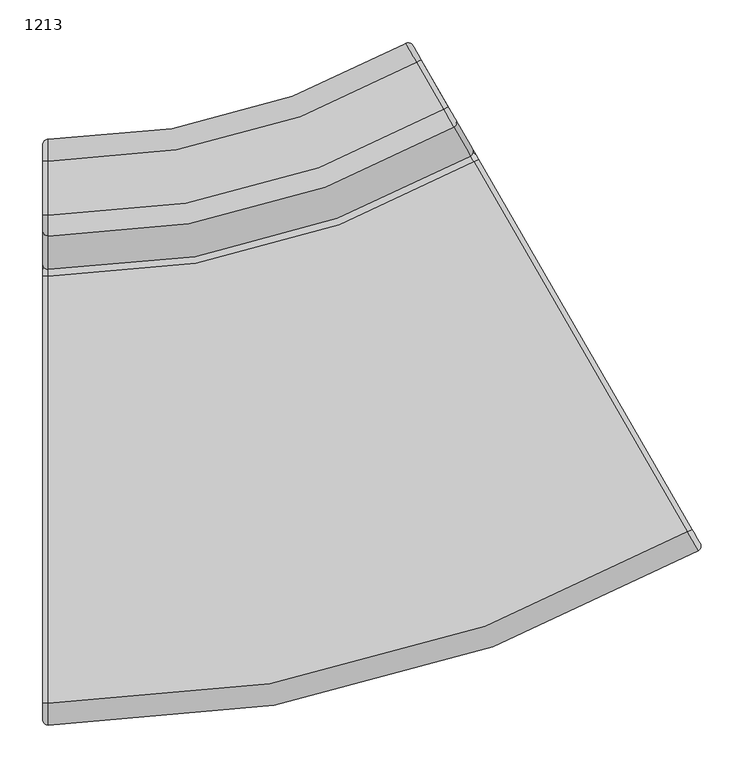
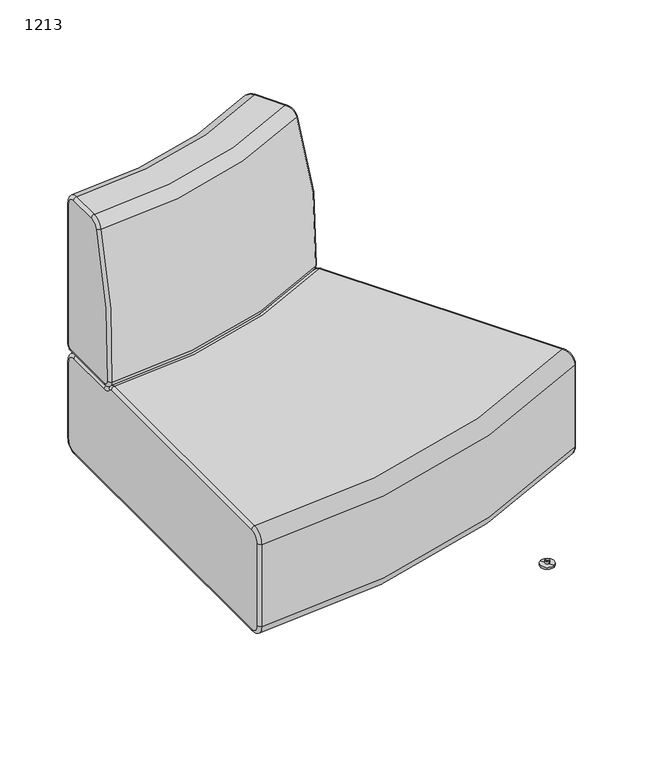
"""IFC4 building model written with IfcOpenShell, lengths in millimetres: furniture geometry, Laguna-Modular-Outside_Curve-ERG : 1213."""

from ifc_helpers import new_model, si_unit, point, frame, frame_2d, origin, place, context, project, spatial, polyline, circle_curve, ellipse_curve, trimmed, segment, composite_curve, outline, extrude, source, transform, mapped, element, save
from ifc_brep_helpers import plane_surface, cylinder_surface, revolved_surface, advanced_brep


def furniture_1213_b8046dc8(model_context):
    return source(origin(), model_context, "Body", "SolidModel", [
        extrude(outline(composite_curve([segment(trimmed(circle_curve(frame_2d((-4285.7544224, 1059.4790196)), 5.08), [point((-4288.2944224, 1063.8784287))], [point((-4281.3550133, 1062.0190196))], False, "CARTESIAN"), True, "CONTINUOUS"), segment(polyline([(-4281.3550133, 1062.0190196), (-4261.0350133, 1026.8237472)]), True, "CONTINUOUS"), segment(trimmed(circle_curve(frame_2d((-4265.4344224, 1024.2837472)), 5.08), [point((-4261.0350133, 1026.8237472))], [point((-4262.8944224, 1019.8843381))], False, "CARTESIAN"), True, "CONTINUOUS"), segment(polyline([(-4262.8944224, 1019.8843381), (-4315.687331, 989.4043381)]), True, "CONTINUOUS"), segment(trimmed(circle_curve(frame_2d((-4318.227331, 993.8037472)), 5.08), [point((-4315.687331, 989.4043381))], [point((-4322.6267401, 991.2637472))], False, "CARTESIAN"), True, "CONTINUOUS"), segment(polyline([(-4322.6267401, 991.2637472), (-4342.9467401, 1026.4590196)]), True, "CONTINUOUS"), segment(trimmed(circle_curve(frame_2d((-4338.547331, 1028.9990196)), 5.08), [point((-4342.9467401, 1026.4590196))], [point((-4341.087331, 1033.3984287))], False, "CARTESIAN"), True, "CONTINUOUS"), segment(polyline([(-4341.087331, 1033.3984287), (-4288.2944224, 1063.8784287)]), True, "CONTINUOUS")], self_intersect=False)), frame((0.0, 0.0, 200.66), z_axis=(0.0, 0.0, 1.0), x_axis=(1.0, 0.0, 0.0)), (0.0, 0.0, 1.0), 2.54),
        extrude(outline(composite_curve([segment(trimmed(circle_curve(frame_2d((-4007.237055, 577.0727885)), 5.08), [point((-4009.777055, 581.4721975))], [point((-4002.8376459, 579.6127885))], False, "CARTESIAN"), True, "CONTINUOUS"), segment(polyline([(-4002.8376459, 579.6127885), (-3982.5176459, 544.4175161)]), True, "CONTINUOUS"), segment(trimmed(circle_curve(frame_2d((-3986.917055, 541.8775161)), 5.08), [point((-3982.5176459, 544.4175161))], [point((-3984.377055, 537.478107))], False, "CARTESIAN"), True, "CONTINUOUS"), segment(polyline([(-3984.377055, 537.478107), (-4037.1699636, 506.998107)]), True, "CONTINUOUS"), segment(trimmed(circle_curve(frame_2d((-4039.7099636, 511.3975161)), 5.08), [point((-4037.1699636, 506.998107))], [point((-4044.1093727, 508.8575161))], False, "CARTESIAN"), True, "CONTINUOUS"), segment(polyline([(-4044.1093727, 508.8575161), (-4064.4293727, 544.0527885)]), True, "CONTINUOUS"), segment(trimmed(circle_curve(frame_2d((-4060.0299636, 546.5927885)), 5.08), [point((-4064.4293727, 544.0527885))], [point((-4062.5699636, 550.9921975))], False, "CARTESIAN"), True, "CONTINUOUS"), segment(polyline([(-4062.5699636, 550.9921975), (-4009.777055, 581.4721975)]), True, "CONTINUOUS")], self_intersect=False)), frame((0.0, 0.0, 200.66), z_axis=(0.0, 0.0, 1.0), x_axis=(1.0, 0.0, 0.0)), (0.0, 0.0, 1.0), 2.54),
        advanced_brep(
        [(-4700.4237656, 845.1834654, 435.9339217), (-4207.4897611, 977.2922447, 435.9339217), (-4226.9150142, 1010.9296795, 744.3916508), (-4700.4237656, 884.0269651, 744.3916508), (-4700.4237656, 863.0813354, 419.1), (-4216.4403103, 992.7913228, 419.1), (-4700.4237656, 984.17383, 419.1), (-4276.997487, 1097.6542078, 419.1), (-4700.4237656, 996.8738467, 431.8), (-4283.3486324, 1108.6520691, 431.8), (-4700.4237656, 996.8738467, 736.5999845), (-4283.3486324, 1108.6520691, 736.6), (-4700.4237656, 971.4738467, 762.0), (-4270.6463416, 1086.6563465, 762.0), (-4700.4237656, 908.202381, 762.0), (-4239.0048967, 1031.8649349, 762.0), (-4706.7737656, 990.5238467, 431.8), (-4706.7737656, 984.1738467, 425.45), (-4706.7737656, 863.0813354, 425.45), (-4706.7737656, 851.5215589, 436.3225994), (-4706.7737656, 890.0708162, 742.4437381), (-4706.7737656, 908.2023695, 755.65), (-4706.7737656, 971.4738467, 755.65), (-4706.7737656, 990.5238467, 736.6), (-4274.6741291, 1106.3287111, 736.6), (-4265.147411, 1089.8319192, 755.65), (-4233.5059661, 1035.0405076, 755.65), (-4224.4385542, 1019.339066, 742.4437381), (-4205.1604489, 985.9564374, 436.3225994), (-4210.9413797, 995.9668955, 425.45), (-4271.4985564, 1100.8297805, 425.45), (-4274.6741291, 1106.3287111, 431.8)],
        [
            (0, 1, circle_curve(frame((-4700.4237656, 1830.8736805, 435.9339217), z_axis=(0.0, 0.0, 1.0), x_axis=(0.5000901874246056, -0.8659733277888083, 0.0)), 985.6902151)),
            (1, 2, circle_curve(frame((-4625.9170797, 1701.8553468, 487.2440105), z_axis=(-0.8659733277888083, -0.5000901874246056, 0.0), x_axis=(0.5000901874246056, -0.8659733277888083, 0.0)), 838.2755126)),
            (2, 3, circle_curve(frame((-4700.4237656, 1830.8736805, 744.3916508), z_axis=(0.0, 0.0, -1.0), x_axis=(0.5000901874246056, -0.8659733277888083, 0.0)), 946.8467154)),
            (3, 0, circle_curve(frame((-4700.4237656, 1681.8871823, 487.2440105), z_axis=(1.0, 0.0, 0.0), x_axis=(0.0, -1.0, 0.0)), 838.2755126)),
            (0, 4, circle_curve(frame((-4700.4237656, 863.0813354, 437.0314921), z_axis=(1.0, 0.0, 0.0), x_axis=(0.0, -1.0, 0.0)), 17.9314921)),
            (4, 5, circle_curve(frame((-4700.4237656, 1830.8736805, 419.1), z_axis=(0.0, 0.0, 1.0), x_axis=(0.5000901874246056, -0.8659733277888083, 0.0)), 967.7923451)),
            (5, 1, circle_curve(frame((-4216.4403103, 992.7913228, 437.0314921), z_axis=(-0.8659733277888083, -0.5000901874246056, 0.0), x_axis=(0.5000901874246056, -0.8659733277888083, 0.0)), 17.9314921)),
            (4, 6),
            (6, 7, circle_curve(frame((-4700.4237656, 1830.8736805, 419.1), z_axis=(0.0, 0.0, 1.0), x_axis=(0.5000901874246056, -0.8659733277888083, 0.0)), 846.6998338)),
            (7, 5),
            (6, 8, circle_curve(frame((-4700.4237656, 984.1738467, 431.8), z_axis=(1.0, 0.0, 0.0), x_axis=(0.0, -1.0, 0.0)), 12.7)),
            (8, 9, circle_curve(frame((-4700.4237656, 1830.8736805, 431.8), z_axis=(0.0, 0.0, 1.0), x_axis=(0.5000901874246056, -0.8659733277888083, 0.0)), 833.9998338)),
            (9, 7, circle_curve(frame((-4276.997487, 1097.6542078, 431.8), z_axis=(-0.8659733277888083, -0.5000901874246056, 0.0), x_axis=(0.5000901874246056, -0.8659733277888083, 0.0)), 12.7)),
            (8, 10),
            (10, 11, circle_curve(frame((-4700.4237656, 1830.8736805, 736.6), z_axis=(0.0, 0.0, 1.0), x_axis=(0.5000901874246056, -0.8659733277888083, 0.0)), 833.9998338)),
            (11, 9),
            (10, 12, circle_curve(frame((-4700.4237656, 971.4738467, 736.6), z_axis=(1.0, 0.0, 0.0), x_axis=(0.0, -1.0, 0.0)), 25.4)),
            (12, 13, circle_curve(frame((-4700.4237656, 1830.8736805, 762.0), z_axis=(0.0, 0.0, 1.0), x_axis=(0.5000901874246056, -0.8659733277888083, 0.0)), 859.3998338)),
            (13, 11, circle_curve(frame((-4270.6463416, 1086.6563465, 736.6), z_axis=(-0.8659733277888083, -0.5000901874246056, 0.0), x_axis=(0.5000901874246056, -0.8659733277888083, 0.0)), 25.4)),
            (12, 14),
            (14, 15, circle_curve(frame((-4700.4237656, 1830.8736805, 762.0), z_axis=(0.0, 0.0, 1.0), x_axis=(0.5000901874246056, -0.8659733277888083, 0.0)), 922.671311)),
            (15, 13),
            (2, 15, circle_curve(frame((-4239.0048967, 1031.8649349, 736.6), z_axis=(-0.8659733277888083, -0.5000901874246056, 0.0), x_axis=(0.5000901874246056, -0.8659733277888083, 0.0)), 25.4)),
            (14, 3, circle_curve(frame((-4700.4237656, 908.2023695, 736.6), z_axis=(1.0, 0.0, 0.0), x_axis=(0.0, -1.0, 0.0)), 25.4)),
            (16, 8, circle_curve(frame((-4700.4237656, 990.5238467, 431.8), z_axis=(0.0, 0.0, -1.0), x_axis=(-1.0, 0.0, 0.0)), 6.35)),
            (6, 17, circle_curve(frame((-4700.4237656, 984.1738467, 425.45), z_axis=(0.0, 1.0, 0.0), x_axis=(-1.0, 0.0, 0.0)), 6.35)),
            (17, 16, circle_curve(frame((-4706.7737656, 984.1738467, 431.8), z_axis=(1.0, 0.0, 0.0), x_axis=(0.0, 1.0, 0.0)), 6.35)),
            (4, 18, circle_curve(frame((-4700.4237656, 863.0813354, 425.45), z_axis=(0.0, 1.0, 0.0), x_axis=(-1.0, 0.0, 0.0)), 6.35)),
            (18, 17),
            (0, 19, circle_curve(frame((-4700.4237656, 851.5215589, 436.3225994), z_axis=(0.0, 0.061209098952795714, -0.9981249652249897), x_axis=(-1.0, 0.0, 0.0)), 6.35)),
            (19, 18, circle_curve(frame((-4706.7737656, 863.0813354, 437.0314921), z_axis=(1.0, 0.0, 0.0), x_axis=(0.0, 0.0, -1.0)), 11.5814921)),
            (3, 20, circle_curve(frame((-4700.4237656, 890.0708162, 742.4437381), z_axis=(0.0, -0.30675790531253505, -0.95178757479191), x_axis=(-1.0, 0.0, 0.0)), 6.35)),
            (20, 19, circle_curve(frame((-4706.7737656, 1681.8871823, 487.2440105), z_axis=(1.0, 0.0, 0.0), x_axis=(0.0, -0.9981249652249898, -0.061209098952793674)), 831.9255126)),
            (14, 21, circle_curve(frame((-4700.4237656, 908.2023695, 755.65), z_axis=(0.0, -1.0, 0.0), x_axis=(-1.0, 0.0, 0.0)), 6.35)),
            (21, 20, circle_curve(frame((-4706.7737656, 908.2023695, 736.6), z_axis=(1.0, 0.0, 0.0), x_axis=(0.0, -0.9517875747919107, 0.3067579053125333)), 19.05)),
            (12, 22, circle_curve(frame((-4700.4237656, 971.4738467, 755.65), z_axis=(0.0, -1.0, 0.0), x_axis=(-1.0, 0.0, 0.0)), 6.35)),
            (22, 21),
            (10, 23, circle_curve(frame((-4700.4237656, 990.5238467, 736.6), z_axis=(0.0, 0.0, 1.0), x_axis=(-1.0, 0.0, 0.0)), 6.35)),
            (23, 22, circle_curve(frame((-4706.7737656, 971.4738467, 736.6), z_axis=(1.0, 0.0, 0.0), x_axis=(0.0, 0.0, 1.0)), 19.05)),
            (16, 23),
            (24, 11, circle_curve(frame((-4280.1730597, 1103.1531384, 736.6), z_axis=(0.0, 0.0, 1.0), x_axis=(0.5000901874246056, -0.8659733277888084, 0.0)), 6.35)),
            (13, 25, circle_curve(frame((-4270.6463416, 1086.6563465, 755.65), z_axis=(-0.5000901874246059, 0.8659733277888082, 0.0), x_axis=(0.0, 0.0, -1.0)), 6.35)),
            (25, 24, circle_curve(frame((-4265.147411, 1089.8319192, 736.6), z_axis=(-0.8659733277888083, -0.5000901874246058, 0.0), x_axis=(-0.5000901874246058, 0.8659733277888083, 0.0)), 19.05)),
            (15, 26, circle_curve(frame((-4239.0048967, 1031.8649349, 755.65), z_axis=(-0.5000901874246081, 0.8659733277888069, 0.0), x_axis=(0.0, 0.0, -1.0)), 6.35)),
            (26, 25),
            (2, 27, circle_curve(frame((-4229.9374848, 1016.1634933, 742.4437381), z_axis=(-0.15340661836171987, 0.26564416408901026, 0.9517875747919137), x_axis=(-0.4759796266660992, 0.8242226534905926, -0.3067579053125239)), 6.35)),
            (27, 26, circle_curve(frame((-4233.5059661, 1035.0405076, 736.6), z_axis=(-0.8659733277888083, -0.5000901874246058, 0.0), x_axis=(0.0, 0.0, 1.0)), 19.05)),
            (1, 28, circle_curve(frame((-4210.6593795, 982.7808647, 436.3225994), z_axis=(0.03061006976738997, -0.05300544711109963, 0.9981249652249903), x_axis=(-0.49915250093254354, 0.8643495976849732, 0.06120909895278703)), 6.35)),
            (28, 27, circle_curve(frame((-4620.4181491, 1705.0309195, 487.2440105), z_axis=(-0.8659733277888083, -0.5000901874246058, 0.0), x_axis=(0.4759796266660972, -0.8242226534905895, 0.30675790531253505)), 831.9255126)),
            (5, 29, circle_curve(frame((-4216.4403103, 992.7913228, 425.45), z_axis=(0.5000901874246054, -0.8659733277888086, 0.0), x_axis=(0.0, 0.0, 1.0000000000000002)), 6.35)),
            (29, 28, circle_curve(frame((-4210.9413797, 995.9668955, 437.0314921), z_axis=(-0.8659733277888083, -0.5000901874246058, 0.0), x_axis=(0.4991525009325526, -0.8643495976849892, -0.06120909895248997)), 11.5814921)),
            (7, 30, circle_curve(frame((-4276.997487, 1097.6542078, 425.45), z_axis=(0.500090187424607, -0.8659733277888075, 0.0), x_axis=(0.0, 0.0, 1.0)), 6.35)),
            (30, 29),
            (9, 31, circle_curve(frame((-4280.1730597, 1103.1531384, 431.8), z_axis=(0.0, 0.0, -1.0), x_axis=(0.5000901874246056, -0.8659733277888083, 0.0)), 6.35)),
            (31, 30, circle_curve(frame((-4271.4985564, 1100.8297805, 431.8), z_axis=(-0.8659733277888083, -0.5000901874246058, 0.0), x_axis=(0.0, 0.0, -1.0)), 6.35)),
            (24, 31),
        ],
        [
            revolved_surface(trimmed(ellipse_curve(frame((-4625.9170797, 1701.8553468, 487.2440105), z_axis=(0.8659733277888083, 0.5000901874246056, 0.0), x_axis=(0.5000901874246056, -0.8659733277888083, 0.0)), 838.2755126, 838.2755126), [point((-4226.9150142, 1010.9296795, 744.3916508))], [point((-4207.4897611, 977.2922447, 435.9339217))], True, "CARTESIAN"), (-4700.4237656, 1830.8736805, 0.0), (0.0, 0.0, -1.0)),
            revolved_surface(trimmed(ellipse_curve(frame((-4216.4403103, 992.7913228, 437.0314921), z_axis=(0.8659733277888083, 0.5000901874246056, 0.0), x_axis=(0.5000901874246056, -0.8659733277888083, 0.0)), 17.9314921, 17.9314921), [point((-4207.4897611, 977.2922447, 435.9339217))], [point((-4216.4403103, 992.7913228, 419.1))], True, "CARTESIAN"), (-4700.4237656, 1830.8736805, 0.0), (0.0, 0.0, -1.0)),
            plane_surface(frame((-4700.4237656, 1830.8736805, 419.1), z_axis=(0.0, 0.0, -1.0), x_axis=(0.5000901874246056, -0.8659733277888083, 0.0))),
            revolved_surface(trimmed(ellipse_curve(frame((-4276.997487, 1097.6542078, 431.8), z_axis=(0.8659733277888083, 0.5000901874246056, 0.0), x_axis=(0.5000901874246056, -0.8659733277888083, 0.0)), 12.7, 12.7), [point((-4276.997487, 1097.6542078, 419.1))], [point((-4283.3486324, 1108.6520691, 431.8))], True, "CARTESIAN"), (-4700.4237656, 1830.8736805, 0.0), (0.0, 0.0, -1.0)),
            revolved_surface(polyline([(-4283.348632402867, 1108.652069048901, 431.8), (-4283.348632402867, 1108.652069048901, 736.6)]), (-4700.4237656, 1830.8736805, 0.0), (0.0, 0.0, -1.0)),
            revolved_surface(trimmed(ellipse_curve(frame((-4270.6463416, 1086.6563465, 736.6), z_axis=(0.8659733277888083, 0.5000901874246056, 0.0), x_axis=(0.5000901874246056, -0.8659733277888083, 0.0)), 25.4, 25.4), [point((-4283.3486324, 1108.6520691, 736.6))], [point((-4270.6463416, 1086.6563465, 762.0))], True, "CARTESIAN"), (-4700.4237656, 1830.8736805, 0.0), (0.0, 0.0, -1.0)),
            plane_surface(frame((-4700.4237656, 1830.8736805, 762.0), z_axis=(0.0, 0.0, 1.0), x_axis=(0.5000901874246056, -0.8659733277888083, 0.0))),
            revolved_surface(trimmed(ellipse_curve(frame((-4239.0048967, 1031.8649349, 736.6), z_axis=(0.8659733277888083, 0.5000901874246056, 0.0), x_axis=(0.5000901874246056, -0.8659733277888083, 0.0)), 25.4, 25.4), [point((-4239.0048967, 1031.8649349, 762.0))], [point((-4226.9150142, 1010.9296795, 744.3916508))], True, "CARTESIAN"), (-4700.4237656, 1830.8736805, 0.0), (0.0, 0.0, -1.0)),
            revolved_surface(trimmed(ellipse_curve(frame((-4700.4237656, 990.5238467, 431.8), z_axis=(0.0, 0.0, 1.0), x_axis=(-1.0, 0.0, 0.0)), 6.35, 6.35), [point((-4700.4237656, 996.8738467, 431.8))], [point((-4706.7737656, 990.5238467, 431.8))], True, "CARTESIAN"), (-4700.4237656, 984.1738467, 431.8), (-1.0, 0.0, 0.0)),
            cylinder_surface(frame((-4700.4237656, 984.1738467, 425.45), z_axis=(0.0, 1.0, 0.0), x_axis=(-1.0, 0.0, 0.0)), 6.35),
            revolved_surface(trimmed(ellipse_curve(frame((-4700.4237656, 863.0813354, 425.45), z_axis=(0.0, 1.0, 0.0), x_axis=(-1.0, 0.0, 0.0)), 6.35, 6.35), [point((-4700.4237656, 863.0813354, 419.1))], [point((-4706.7737656, 863.0813354, 425.45))], True, "CARTESIAN"), (-4700.4237656, 863.0813354, 437.0314921), (-1.0, 0.0, 0.0)),
            revolved_surface(trimmed(ellipse_curve(frame((-4700.4237656, 851.5215589, 436.3225994), z_axis=(0.0, 0.0612090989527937, -0.9981249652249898), x_axis=(-1.0, 0.0, 0.0)), 6.35, 6.35), [point((-4700.4237656, 845.1834654, 435.9339217))], [point((-4706.7737656, 851.5215589, 436.3225994))], True, "CARTESIAN"), (-4700.4237656, 1681.8871823, 487.2440105), (-1.0, 0.0, 0.0)),
            revolved_surface(trimmed(ellipse_curve(frame((-4700.4237656, 890.0708162, 742.4437381), z_axis=(0.0, -0.3067579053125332, -0.9517875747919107), x_axis=(-1.0, 0.0, 0.0)), 6.35, 6.35), [point((-4700.4237656, 884.0269651, 744.3916508))], [point((-4706.7737656, 890.0708162, 742.4437381))], True, "CARTESIAN"), (-4700.4237656, 908.2023695, 736.6), (-1.0, 0.0, 0.0)),
            cylinder_surface(frame((-4700.4237656, 908.2023695, 755.65), z_axis=(0.0, -1.0, 0.0), x_axis=(-1.0, 0.0, 0.0)), 6.35),
            revolved_surface(trimmed(ellipse_curve(frame((-4700.4237656, 971.4738467, 755.65), z_axis=(0.0, -1.0, 0.0), x_axis=(-1.0, 0.0, 0.0)), 6.35, 6.35), [point((-4700.4237656, 971.4738467, 762.0))], [point((-4706.7737656, 971.4738467, 755.65))], True, "CARTESIAN"), (-4700.4237656, 971.4738467, 736.6), (-1.0, 0.0, 0.0)),
            cylinder_surface(frame((-4700.4237656, 990.5238467, 736.6), z_axis=(0.0, 0.0, 1.0), x_axis=(-1.0, 0.0, 0.0)), 6.35),
            plane_surface(frame((-4706.7737656, 990.5238467, 431.8), z_axis=(-1.0, 0.0, 0.0), x_axis=(0.0, 0.0, -1.0))),
            revolved_surface(trimmed(ellipse_curve(frame((-4280.1730597, 1103.1531384, 736.6), z_axis=(0.0, 0.0, -1.0), x_axis=(0.5000901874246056, -0.8659733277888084, 0.0)), 6.35, 6.35), [point((-4283.3486324, 1108.6520691, 736.6))], [point((-4274.6741291, 1106.3287111, 736.6))], True, "CARTESIAN"), (-4270.6463416, 1086.6563465, 736.6), (0.8659733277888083, 0.5000901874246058, 0.0)),
            cylinder_surface(frame((-4270.6463416, 1086.6563465, 755.65), z_axis=(-0.5000901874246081, 0.8659733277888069, 0.0), x_axis=(0.0, 0.0, -1.0)), 6.35),
            revolved_surface(trimmed(ellipse_curve(frame((-4239.0048967, 1031.8649349, 755.65), z_axis=(-0.5000901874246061, 0.8659733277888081, 0.0), x_axis=(0.0, 0.0, -1.0)), 6.35, 6.35), [point((-4239.0048967, 1031.8649349, 762.0))], [point((-4233.5059661, 1035.0405076, 755.65))], True, "CARTESIAN"), (-4239.0048967, 1031.8649349, 736.6), (0.8659733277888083, 0.5000901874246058, 0.0)),
            revolved_surface(trimmed(ellipse_curve(frame((-4229.9374848, 1016.1634933, 742.4437381), z_axis=(-0.15340661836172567, 0.26564416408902, 0.9517875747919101), x_axis=(-0.4759796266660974, 0.8242226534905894, -0.30675790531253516)), 6.35, 6.35), [point((-4226.9150142, 1010.9296795, 744.3916508))], [point((-4224.4385542, 1019.339066, 742.4437381))], True, "CARTESIAN"), (-4625.9170797, 1701.8553468, 487.2440105), (0.8659733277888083, 0.5000901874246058, 0.0)),
            revolved_surface(trimmed(ellipse_curve(frame((-4210.6593795, 982.7808647, 436.3225994), z_axis=(0.03061006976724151, -0.053005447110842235, 0.9981249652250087), x_axis=(-0.49915250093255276, 0.8643495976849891, 0.06120909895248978)), 6.35, 6.35), [point((-4207.4897611, 977.2922447, 435.9339217))], [point((-4205.1604489, 985.9564374, 436.3225994))], True, "CARTESIAN"), (-4216.4403103, 992.7913228, 437.0314921), (0.8659733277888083, 0.5000901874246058, 0.0)),
            cylinder_surface(frame((-4216.4403103, 992.7913228, 425.45), z_axis=(0.500090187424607, -0.8659733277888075, 0.0), x_axis=(0.0, 0.0, 1.0)), 6.35),
            revolved_surface(trimmed(ellipse_curve(frame((-4276.997487, 1097.6542078, 425.45), z_axis=(0.5000901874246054, -0.8659733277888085, 0.0), x_axis=(0.0, 0.0, 1.0)), 6.35, 6.35), [point((-4276.997487, 1097.6542078, 419.1))], [point((-4271.4985564, 1100.8297805, 425.45))], True, "CARTESIAN"), (-4276.997487, 1097.6542078, 431.8), (0.8659733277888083, 0.5000901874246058, 0.0)),
            cylinder_surface(frame((-4280.1730597, 1103.1531384, 431.8), z_axis=(0.0, 0.0, -1.0), x_axis=(0.5000901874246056, -0.8659733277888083, 0.0)), 6.35),
            plane_surface(frame((-5036.4559346, 2425.4562241, 487.2440105), z_axis=(0.8659733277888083, 0.5000901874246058, 0.0), x_axis=(0.0, 0.0, 1.0))),
        ],
        [
            (0, [[1, 2, 3, 4]]),
            (1, [[-1, 5, 6, 7]]),
            (2, [[-6, 8, 9, 10]]),
            (3, [[-9, 11, 12, 13]]),
            (4, [[-12, 14, 15, 16]]),
            (5, [[-15, 17, 18, 19]]),
            (6, [[-18, 20, 21, 22]]),
            (7, [[-3, 23, -21, 24]]),
            (8, [[25, -11, 26, 27]]),
            (9, [[-26, -8, 28, 29]]),
            (10, [[-28, -5, 30, 31]]),
            (11, [[-30, -4, 32, 33]]),
            (12, [[-32, -24, 34, 35]]),
            (13, [[-34, -20, 36, 37]]),
            (14, [[-36, -17, 38, 39]]),
            (15, [[-25, 40, -38, -14]]),
            (16, [[-27, -29, -31, -33, -35, -37, -39, -40]]),
            (17, [[41, -19, 42, 43]]),
            (18, [[-42, -22, 44, 45]]),
            (19, [[-44, -23, 46, 47]]),
            (20, [[-46, -2, 48, 49]]),
            (21, [[-48, -7, 50, 51]]),
            (22, [[-50, -10, 52, 53]]),
            (23, [[-52, -13, 54, 55]]),
            (24, [[-41, 56, -54, -16]]),
            (25, [[-43, -45, -47, -49, -51, -53, -55, -56]]),
        ],
    ),
        advanced_brep(
        [(-4270.6369938, 1086.6348651, 203.2), (-4700.4237656, 971.4738467, 203.2), (-4700.4237656, 996.8738467, 228.6), (-4283.3369938, 1108.6319104, 228.6), (-3954.3683769, 538.8415519, 203.2), (-4700.4237656, 338.9365976, 203.2), (-3941.6683692, 516.8444933, 228.6), (-4700.4237656, 313.5365976, 228.6), (-3941.6683692, 516.8444933, 406.3999809), (-4700.4237656, 313.5365976, 406.4), (-3954.3683692, 538.8415385, 431.8), (-4700.4237656, 338.9365976, 431.8), (-4203.6043497, 970.5309199, 431.8), (-4700.4237656, 837.408566, 431.8), (-4209.3142226, 980.4207099, 426.1507973), (-4700.4237656, 848.8283045, 426.1507973), (-4216.4407381, 992.7641967, 419.1), (-4700.4237656, 863.0813354, 419.1), (-4270.6369857, 1086.6348511, 419.1), (-4700.4237656, 971.4738467, 419.1), (-4283.3369938, 1108.6319104, 393.7), (-4700.4237656, 996.8738467, 393.7), (-4706.7737656, 971.4738467, 412.75), (-4706.7737656, 990.5238467, 393.7), (-4706.7737656, 990.5238467, 228.6), (-4706.7737656, 971.4738467, 209.55), (-4706.7737656, 338.9365976, 209.55), (-4706.7737656, 319.8865976, 228.6), (-4706.7737656, 319.8865976, 406.4), (-4706.7737656, 338.9365976, 425.45), (-4706.7737656, 837.408566, 425.45), (-4706.7737656, 843.7809417, 422.2976649), (-4706.7737656, 863.0813354, 412.75), (-4265.1377324, 1089.8098651, 209.55), (-4274.6627324, 1106.3076491, 228.6), (-4274.6627324, 1106.3076491, 393.7), (-4265.1377324, 1089.8098651, 412.75), (-4210.9414768, 995.9391967, 412.75), (-4201.2912799, 979.2245655, 422.2976649), (-4198.1050921, 973.7059263, 425.45), (-3948.8691079, 542.0165385, 425.45), (-3939.3441079, 525.5187546, 406.4), (-3939.3441079, 525.5187546, 228.6), (-3948.8691079, 542.0165385, 209.55)],
        [
            (0, 1, circle_curve(frame((-4700.4237656, 1831.0473903, 203.2), z_axis=(0.0, 0.0, -1.0), x_axis=(0.0, -1.0, 0.0)), 859.5735436)),
            (1, 2, circle_curve(frame((-4700.4237656, 971.4738467, 228.6), z_axis=(1.0, 0.0, 0.0), x_axis=(0.0, 1.0, 0.0)), 25.4)),
            (2, 3, circle_curve(frame((-4700.4237656, 1831.0473903, 228.6), z_axis=(0.0, 0.0, 1.0), x_axis=(0.0, -1.0, 0.0)), 834.1735436)),
            (3, 0, circle_curve(frame((-4270.6369938, 1086.6348651, 228.6), z_axis=(-0.8660254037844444, -0.4999999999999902, 0.0), x_axis=(-0.4999999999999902, 0.8660254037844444, 0.0)), 25.4)),
            (0, 4),
            (4, 5, circle_curve(frame((-4700.4237656, 1831.0473903, 203.2), z_axis=(0.0, 0.0, -1.0), x_axis=(0.0, -1.0, 0.0)), 1492.1107927)),
            (5, 1),
            (4, 6, circle_curve(frame((-3954.3683692, 538.8415385, 228.6), z_axis=(-0.8660254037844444, -0.4999999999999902, 0.0), x_axis=(-0.4999999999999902, 0.8660254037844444, 0.0)), 25.4)),
            (6, 7, circle_curve(frame((-4700.4237656, 1831.0473903, 228.6), z_axis=(0.0, 0.0, -1.0), x_axis=(0.0, -1.0, 0.0)), 1517.5107927)),
            (7, 5, circle_curve(frame((-4700.4237656, 338.9365976, 228.6), z_axis=(1.0, 0.0, 0.0), x_axis=(0.0, 1.0, 0.0)), 25.4)),
            (6, 8),
            (8, 9, circle_curve(frame((-4700.4237656, 1831.0473903, 406.4), z_axis=(0.0, 0.0, -1.0), x_axis=(0.0, -1.0, 0.0)), 1517.5107927)),
            (9, 7),
            (8, 10, circle_curve(frame((-3954.3683692, 538.8415385, 406.4), z_axis=(-0.8660254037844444, -0.4999999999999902, 0.0), x_axis=(-0.4999999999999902, 0.8660254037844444, 0.0)), 25.4)),
            (10, 11, circle_curve(frame((-4700.4237656, 1831.0473903, 431.8), z_axis=(0.0, 0.0, -1.0), x_axis=(0.0, -1.0, 0.0)), 1492.1107927)),
            (11, 9, circle_curve(frame((-4700.4237656, 338.9365976, 406.4), z_axis=(1.0, 0.0, 0.0), x_axis=(0.0, 1.0, 0.0)), 25.4)),
            (10, 12),
            (12, 13, circle_curve(frame((-4700.4237656, 1831.0473903, 431.8), z_axis=(0.0, 0.0, -1.0), x_axis=(0.0, -1.0, 0.0)), 993.6388243)),
            (13, 11),
            (12, 14, circle_curve(frame((-4203.6043534, 970.5309263, 417.4330241), z_axis=(-0.8660254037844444, -0.4999999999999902, 0.0), x_axis=(-0.4999999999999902, 0.8660254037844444, 0.0)), 14.3669759)),
            (14, 15, circle_curve(frame((-4700.4237656, 1831.0473903, 426.1507973), z_axis=(0.0, 0.0, -1.0), x_axis=(0.0, -1.0, 0.0)), 982.2190858)),
            (15, 13, circle_curve(frame((-4700.4237656, 837.408566, 417.4330241), z_axis=(1.0, 0.0, 0.0), x_axis=(0.0, 1.0, 0.0)), 14.3669759)),
            (14, 16, circle_curve(frame((-4216.4407381, 992.7641967, 437.0314921), z_axis=(0.8660254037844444, 0.4999999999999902, 0.0), x_axis=(-0.4999999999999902, 0.8660254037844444, 0.0)), 17.9314921)),
            (16, 17, circle_curve(frame((-4700.4237656, 1831.0473903, 419.1), z_axis=(0.0, 0.0, -1.0), x_axis=(0.0, -1.0, 0.0)), 967.9660549)),
            (17, 15, circle_curve(frame((-4700.4237656, 863.0813354, 437.0314921), z_axis=(-1.0, 0.0, 0.0), x_axis=(0.0, 1.0, 0.0)), 17.9314921)),
            (16, 18),
            (18, 19, circle_curve(frame((-4700.4237656, 1831.0473903, 419.1), z_axis=(0.0, 0.0, -1.0), x_axis=(0.0, -1.0, 0.0)), 859.5735436)),
            (19, 17),
            (18, 20, circle_curve(frame((-4270.6369938, 1086.6348651, 393.7), z_axis=(-0.8660254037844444, -0.4999999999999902, 0.0), x_axis=(-0.4999999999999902, 0.8660254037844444, 0.0)), 25.4)),
            (20, 21, circle_curve(frame((-4700.4237656, 1831.0473903, 393.7), z_axis=(0.0, 0.0, -1.0), x_axis=(0.0, -1.0, 0.0)), 834.1735436)),
            (21, 19, circle_curve(frame((-4700.4237656, 971.4738467, 393.7), z_axis=(1.0, 0.0, 0.0), x_axis=(0.0, 1.0, 0.0)), 25.4)),
            (2, 21),
            (20, 3),
            (22, 19, circle_curve(frame((-4700.4237656, 971.4738467, 412.75), z_axis=(0.0, 1.0, 0.0), x_axis=(0.0, 0.0, -1.0)), 6.35)),
            (21, 23, circle_curve(frame((-4700.4237656, 990.5238467, 393.7), z_axis=(0.0, 0.0, 1.0), x_axis=(0.0, -1.0, 0.0)), 6.35)),
            (23, 22, circle_curve(frame((-4706.7737656, 971.4738467, 393.7), z_axis=(1.0, 0.0, 0.0), x_axis=(0.0, 0.0, 1.0)), 19.05)),
            (2, 24, circle_curve(frame((-4700.4237656, 990.5238467, 228.6), z_axis=(0.0, 0.0, 1.0), x_axis=(0.0, -1.0, 0.0)), 6.35)),
            (24, 23),
            (1, 25, circle_curve(frame((-4700.4237656, 971.4738467, 209.55), z_axis=(0.0, 1.0, 0.0), x_axis=(0.0, 0.0, 1.0)), 6.35)),
            (25, 24, circle_curve(frame((-4706.7737656, 971.4738467, 228.6), z_axis=(1.0, 0.0, 0.0), x_axis=(0.0, 1.0, 0.0)), 19.05)),
            (5, 26, circle_curve(frame((-4700.4237656, 338.9365976, 209.55), z_axis=(0.0, 1.0, 0.0), x_axis=(0.0, 0.0, 1.0)), 6.35)),
            (26, 25),
            (7, 27, circle_curve(frame((-4700.4237656, 319.8865976, 228.6), z_axis=(0.0, 0.0, -1.0), x_axis=(0.0, 1.0, 0.0)), 6.35)),
            (27, 26, circle_curve(frame((-4706.7737656, 338.9365976, 228.6), z_axis=(1.0, 0.0, 0.0), x_axis=(0.0, 0.0, -1.0)), 19.05)),
            (9, 28, circle_curve(frame((-4700.4237656, 319.8865976, 406.4), z_axis=(0.0, 0.0, -1.0), x_axis=(0.0, 1.0, 0.0)), 6.35)),
            (28, 27),
            (11, 29, circle_curve(frame((-4700.4237656, 338.9365976, 425.45), z_axis=(0.0, -1.0, 0.0), x_axis=(0.0, 0.0, -1.0)), 6.35)),
            (29, 28, circle_curve(frame((-4706.7737656, 338.9365976, 406.4), z_axis=(1.0, 0.0, 0.0), x_axis=(0.0, -1.0, 0.0)), 19.05)),
            (13, 30, circle_curve(frame((-4700.4237656, 837.408566, 425.45), z_axis=(0.0, -1.0, 0.0), x_axis=(0.0, 0.0, -1.0)), 6.35)),
            (30, 29),
            (15, 31, circle_curve(frame((-4700.4237656, 843.7809417, 422.2976649), z_axis=(0.0, -0.6067924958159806, 0.7948602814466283), x_axis=(0.0, -0.7948602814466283, -0.6067924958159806)), 6.35)),
            (31, 30, circle_curve(frame((-4706.7737656, 837.408566, 417.4330241), z_axis=(1.0, 0.0, 0.0), x_axis=(0.0, 0.0, 1.0)), 8.0169759)),
            (17, 32, circle_curve(frame((-4700.4237656, 863.0813354, 412.75), z_axis=(0.0, -1.0, 0.0), x_axis=(0.0, 0.0, -1.0)), 6.35)),
            (32, 31, circle_curve(frame((-4706.7737656, 863.0813354, 437.0314921), z_axis=(-1.0, 0.0, 0.0), x_axis=(0.0, -0.7948602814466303, -0.6067924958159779)), 24.2814921)),
            (22, 32),
            (33, 0, circle_curve(frame((-4270.6369938, 1086.6348651, 209.55), z_axis=(-0.4999999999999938, 0.8660254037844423, 0.0), x_axis=(0.0, 0.0, 1.0)), 6.35)),
            (3, 34, circle_curve(frame((-4280.1619938, 1103.1326491, 228.6), z_axis=(0.0, 0.0, -1.0), x_axis=(0.49999999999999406, -0.8660254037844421, 0.0)), 6.35)),
            (34, 33, circle_curve(frame((-4265.1377324, 1089.8098651, 228.6), z_axis=(-0.8660254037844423, -0.49999999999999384, 0.0), x_axis=(0.0, 0.0, -1.0)), 19.05)),
            (20, 35, circle_curve(frame((-4280.1619938, 1103.1326491, 393.7), z_axis=(0.0, 0.0, -1.0), x_axis=(0.49999999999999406, -0.8660254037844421, 0.0)), 6.35)),
            (35, 34),
            (18, 36, circle_curve(frame((-4270.6369938, 1086.6348651, 412.75), z_axis=(-0.4999999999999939, 0.8660254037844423, 0.0), x_axis=(0.0, 0.0, -1.0)), 6.35)),
            (36, 35, circle_curve(frame((-4265.1377324, 1089.8098651, 393.7), z_axis=(-0.8660254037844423, -0.49999999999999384, 0.0), x_axis=(-0.49999999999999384, 0.8660254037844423, 0.0)), 19.05)),
            (16, 37, circle_curve(frame((-4216.4407381, 992.7641967, 412.75), z_axis=(-0.49999999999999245, 0.8660254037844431, 0.0), x_axis=(0.0, 0.0, -1.0)), 6.35)),
            (37, 36),
            (14, 38, circle_curve(frame((-4206.7905412, 976.0495655, 422.2976649), z_axis=(-0.3033962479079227, 0.5254977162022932, -0.794860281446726), x_axis=(0.39743014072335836, -0.6883691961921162, -0.6067924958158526)), 6.35)),
            (38, 37, circle_curve(frame((-4210.9414768, 995.9391967, 437.0314921), z_axis=(0.8660254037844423, 0.49999999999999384, 0.0), x_axis=(0.0, 0.0, -1.0)), 24.2814921)),
            (12, 39, circle_curve(frame((-4203.6043534, 970.5309263, 425.45), z_axis=(-0.4999999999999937, 0.8660254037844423, 0.0), x_axis=(0.0, 0.0, -1.0)), 6.35)),
            (39, 38, circle_curve(frame((-4198.1050921, 973.7059263, 417.4330241), z_axis=(-0.8660254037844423, -0.49999999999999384, 0.0), x_axis=(-0.39743014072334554, 0.6883691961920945, 0.6067924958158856)), 8.0169759)),
            (10, 40, circle_curve(frame((-3954.3683692, 538.8415385, 425.45), z_axis=(-0.49999999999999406, 0.8660254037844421, 0.0), x_axis=(0.0, 0.0, -1.0)), 6.35)),
            (40, 39),
            (8, 41, circle_curve(frame((-3944.8433692, 522.3437546, 406.4), z_axis=(0.0, 0.0, 1.0), x_axis=(-0.4999999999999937, 0.8660254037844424, 0.0)), 6.35)),
            (41, 40, circle_curve(frame((-3948.8691079, 542.0165385, 406.4), z_axis=(-0.8660254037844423, -0.49999999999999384, 0.0), x_axis=(0.0, 0.0, 1.0)), 19.05)),
            (6, 42, circle_curve(frame((-3944.8433692, 522.3437546, 228.6), z_axis=(0.0, 0.0, 1.0), x_axis=(-0.4999999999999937, 0.8660254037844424, 0.0)), 6.35)),
            (42, 41),
            (4, 43, circle_curve(frame((-3954.3683692, 538.8415385, 209.55), z_axis=(0.49999999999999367, -0.8660254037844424, 0.0), x_axis=(0.0, 0.0, 1.0)), 6.35)),
            (43, 42, circle_curve(frame((-3948.8691079, 542.0165385, 228.6), z_axis=(-0.8660254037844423, -0.49999999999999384, 0.0), x_axis=(0.49999999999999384, -0.8660254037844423, 0.0)), 19.05)),
            (33, 43),
        ],
        [
            revolved_surface(trimmed(ellipse_curve(frame((-4700.4237656, 971.4738467, 228.6), z_axis=(-1.0, 0.0, 0.0), x_axis=(0.0, 1.0, 0.0)), 25.4, 25.4), [point((-4700.4237656, 996.8738467, 228.6))], [point((-4700.4237656, 971.4738467, 203.2))], True, "CARTESIAN"), (-4700.4237656, 1831.0473903, 0.0), (0.0, 0.0, 1.0)),
            plane_surface(frame((-4700.4237656, 1831.0473903, 203.2), z_axis=(0.0, 0.0, -1.0), x_axis=(0.0, -1.0, 0.0))),
            revolved_surface(trimmed(ellipse_curve(frame((-4700.4237656, 338.9365976, 228.6), z_axis=(-1.0, 0.0, 0.0), x_axis=(0.0, 1.0, 0.0)), 25.4, 25.4), [point((-4700.4237656, 338.9365976, 203.2))], [point((-4700.4237656, 313.5365976, 228.6))], True, "CARTESIAN"), (-4700.4237656, 1831.0473903, 0.0), (0.0, 0.0, 1.0)),
            cylinder_surface(frame((-4700.4237656, 1831.0473903, 0.0), z_axis=(0.0, 0.0, 1.0), x_axis=(0.0, -1.0, 0.0)), 1517.5107927),
            revolved_surface(trimmed(ellipse_curve(frame((-4700.4237656, 338.9365976, 406.4), z_axis=(-1.0, 0.0, 0.0), x_axis=(0.0, 1.0, 0.0)), 25.4, 25.4), [point((-4700.4237656, 313.5365976, 406.4))], [point((-4700.4237656, 338.9365976, 431.8))], True, "CARTESIAN"), (-4700.4237656, 1831.0473903, 0.0), (0.0, 0.0, 1.0)),
            plane_surface(frame((-4700.4237656, 1831.0473903, 431.8), z_axis=(0.0, 0.0, 1.0), x_axis=(0.0, -1.0, 0.0))),
            revolved_surface(trimmed(ellipse_curve(frame((-4700.4237656, 837.408566, 417.4330241), z_axis=(-1.0, 0.0, 0.0), x_axis=(0.0, 1.0, 0.0)), 14.3669759, 14.3669759), [point((-4700.4237656, 837.408566, 431.8))], [point((-4700.4237656, 848.8283045, 426.1507973))], True, "CARTESIAN"), (-4700.4237656, 1831.0473903, 0.0), (0.0, 0.0, 1.0)),
            revolved_surface(trimmed(ellipse_curve(frame((-4700.4237656, 863.0813354, 437.0314921), z_axis=(1.0, 0.0, 0.0), x_axis=(0.0, 1.0, 0.0)), 17.9314921, 17.9314921), [point((-4700.4237656, 848.8283045, 426.1507973))], [point((-4700.4237656, 863.0813354, 419.1))], True, "CARTESIAN"), (-4700.4237656, 1831.0473903, 0.0), (0.0, 0.0, 1.0)),
            plane_surface(frame((-4700.4237656, 1831.0473903, 419.1), z_axis=(0.0, 0.0, 1.0), x_axis=(0.0, -1.0, 0.0))),
            revolved_surface(trimmed(ellipse_curve(frame((-4700.4237656, 971.4738467, 393.7), z_axis=(-1.0, 0.0, 0.0), x_axis=(0.0, 1.0, 0.0)), 25.4, 25.4), [point((-4700.4237656, 971.4738467, 419.1))], [point((-4700.4237656, 996.8738467, 393.7))], True, "CARTESIAN"), (-4700.4237656, 1831.0473903, 0.0), (0.0, 0.0, 1.0)),
            revolved_surface(polyline([(-4700.4237656, 996.8738467, 393.7), (-4700.4237656, 996.8738467, 228.6)]), (-4700.4237656, 1831.0473903, 0.0), (0.0, 0.0, 1.0)),
            revolved_surface(trimmed(ellipse_curve(frame((-4700.4237656, 971.4738467, 412.75), z_axis=(0.0, -1.0, 0.0), x_axis=(0.0, 0.0, -1.0)), 6.35, 6.35), [point((-4700.4237656, 971.4738467, 419.1))], [point((-4706.7737656, 971.4738467, 412.75))], True, "CARTESIAN"), (-4700.4237656, 971.4738467, 393.7), (-1.0, 0.0, 0.0)),
            cylinder_surface(frame((-4700.4237656, 990.5238467, 393.7), z_axis=(0.0, 0.0, 1.0), x_axis=(0.0, -1.0, 0.0)), 6.35),
            revolved_surface(trimmed(ellipse_curve(frame((-4700.4237656, 990.5238467, 228.6), z_axis=(0.0, 0.0, 1.0), x_axis=(0.0, -1.0, 0.0)), 6.35, 6.35), [point((-4700.4237656, 996.8738467, 228.6))], [point((-4706.7737656, 990.5238467, 228.6))], True, "CARTESIAN"), (-4700.4237656, 971.4738467, 228.6), (-1.0, 0.0, 0.0)),
            cylinder_surface(frame((-4700.4237656, 971.4738467, 209.55), z_axis=(0.0, 1.0, 0.0), x_axis=(0.0, 0.0, 1.0)), 6.35),
            revolved_surface(trimmed(ellipse_curve(frame((-4700.4237656, 338.9365976, 209.55), z_axis=(0.0, 1.0, 0.0), x_axis=(0.0, 0.0, 1.0)), 6.35, 6.35), [point((-4700.4237656, 338.9365976, 203.2))], [point((-4706.7737656, 338.9365976, 209.55))], True, "CARTESIAN"), (-4700.4237656, 338.9365976, 228.6), (-1.0, 0.0, 0.0)),
            cylinder_surface(frame((-4700.4237656, 319.8865976, 228.6), z_axis=(0.0, 0.0, -1.0), x_axis=(0.0, 1.0, 0.0)), 6.35),
            revolved_surface(trimmed(ellipse_curve(frame((-4700.4237656, 319.8865976, 406.4), z_axis=(0.0, 0.0, -1.0), x_axis=(0.0, 1.0, 0.0)), 6.35, 6.35), [point((-4700.4237656, 313.5365976, 406.4))], [point((-4706.7737656, 319.8865976, 406.4))], True, "CARTESIAN"), (-4700.4237656, 338.9365976, 406.4), (-1.0, 0.0, 0.0)),
            cylinder_surface(frame((-4700.4237656, 338.9365976, 425.45), z_axis=(0.0, -1.0, 0.0), x_axis=(0.0, 0.0, -1.0)), 6.35),
            revolved_surface(trimmed(ellipse_curve(frame((-4700.4237656, 837.408566, 425.45), z_axis=(0.0, -1.0, 0.0), x_axis=(0.0, 0.0, -1.0)), 6.35, 6.35), [point((-4700.4237656, 837.408566, 431.8))], [point((-4706.7737656, 837.408566, 425.45))], True, "CARTESIAN"), (-4700.4237656, 837.408566, 417.4330241), (-1.0, 0.0, 0.0)),
            revolved_surface(trimmed(ellipse_curve(frame((-4700.4237656, 843.7809417, 422.2976649), z_axis=(0.0, -0.6067924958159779, 0.7948602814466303), x_axis=(0.0, -0.7948602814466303, -0.6067924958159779)), 6.35, 6.35), [point((-4700.4237656, 848.8283045, 426.1507973))], [point((-4706.7737656, 843.7809417, 422.2976649))], True, "CARTESIAN"), (-4700.4237656, 863.0813354, 437.0314921), (1.0, 0.0, 0.0)),
            cylinder_surface(frame((-4700.4237656, 863.0813354, 412.75), z_axis=(0.0, -1.0, 0.0), x_axis=(0.0, 0.0, -1.0)), 6.35),
            plane_surface(frame((-4706.7737656, 990.5238467, 228.6), z_axis=(-1.0, 0.0, 0.0), x_axis=(0.0, 0.0, -1.0))),
            revolved_surface(trimmed(ellipse_curve(frame((-4270.6369938, 1086.6348651, 209.55), z_axis=(0.4999999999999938, -0.8660254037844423, 0.0), x_axis=(0.0, 0.0, 1.0)), 6.35, 6.35), [point((-4270.6369938, 1086.6348651, 203.2))], [point((-4265.1377324, 1089.8098651, 209.55))], True, "CARTESIAN"), (-4270.6369938, 1086.6348651, 228.6), (0.8660254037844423, 0.49999999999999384, 0.0)),
            cylinder_surface(frame((-4280.1619938, 1103.1326491, 228.6), z_axis=(0.0, 0.0, -1.0000000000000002), x_axis=(0.49999999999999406, -0.8660254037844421, 0.0)), 6.35),
            revolved_surface(trimmed(ellipse_curve(frame((-4280.1619938, 1103.1326491, 393.7), z_axis=(0.0, 0.0, -1.0), x_axis=(0.499999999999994, -0.8660254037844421, 0.0)), 6.35, 6.35), [point((-4283.3369938, 1108.6319104, 393.7))], [point((-4274.6627324, 1106.3076491, 393.7))], True, "CARTESIAN"), (-4270.6369938, 1086.6348651, 393.7), (0.8660254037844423, 0.49999999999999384, 0.0)),
            cylinder_surface(frame((-4270.6369938, 1086.6348651, 412.75), z_axis=(-0.49999999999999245, 0.8660254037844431, 0.0), x_axis=(0.0, 0.0, -1.0)), 6.35),
            revolved_surface(trimmed(ellipse_curve(frame((-4216.4407381, 992.7641967, 412.75), z_axis=(-0.49999999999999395, 0.8660254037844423, 0.0), x_axis=(0.0, 0.0, -1.0)), 6.35, 6.35), [point((-4216.4407381, 992.7641967, 419.1))], [point((-4210.9414768, 995.9391967, 412.75))], True, "CARTESIAN"), (-4216.4407381, 992.7641967, 437.0314921), (-0.8660254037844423, -0.49999999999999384, 0.0)),
            revolved_surface(trimmed(ellipse_curve(frame((-4206.7905412, 976.0495655, 422.2976649), z_axis=(-0.3033962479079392, 0.5254977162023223, -0.7948602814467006), x_axis=(0.39743014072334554, -0.688369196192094, -0.606792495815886)), 6.35, 6.35), [point((-4209.3142226, 980.4207099, 426.1507973))], [point((-4201.2912799, 979.2245655, 422.2976649))], True, "CARTESIAN"), (-4203.6043534, 970.5309263, 417.4330241), (0.8660254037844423, 0.49999999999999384, 0.0)),
            cylinder_surface(frame((-4203.6043534, 970.5309263, 425.45), z_axis=(-0.49999999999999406, 0.8660254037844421, 0.0), x_axis=(0.0, 0.0, -1.0)), 6.35),
            revolved_surface(trimmed(ellipse_curve(frame((-3954.3683692, 538.8415385, 425.45), z_axis=(-0.499999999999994, 0.8660254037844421, 0.0), x_axis=(0.0, 0.0, -1.0)), 6.35, 6.35), [point((-3954.3683692, 538.8415385, 431.8))], [point((-3948.8691079, 542.0165385, 425.45))], True, "CARTESIAN"), (-3954.3683692, 538.8415385, 406.4), (0.8660254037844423, 0.49999999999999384, 0.0)),
            cylinder_surface(frame((-3944.8433692, 522.3437546, 406.4), z_axis=(0.0, 0.0, 1.0), x_axis=(-0.4999999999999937, 0.8660254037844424, 0.0)), 6.35),
            revolved_surface(trimmed(ellipse_curve(frame((-3944.8433692, 522.3437546, 228.6), z_axis=(0.0, 0.0, 1.0), x_axis=(-0.49999999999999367, 0.8660254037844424, 0.0)), 6.35, 6.35), [point((-3941.6683692, 516.8444933, 228.6))], [point((-3939.3441079, 525.5187546, 228.6))], True, "CARTESIAN"), (-3954.3683692, 538.8415385, 228.6), (0.8660254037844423, 0.49999999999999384, 0.0)),
            cylinder_surface(frame((-3954.3683692, 538.8415385, 209.55), z_axis=(0.4999999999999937, -0.8660254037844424, 0.0), x_axis=(0.0, 0.0, 1.0)), 6.35),
            plane_surface(frame((-3939.3441079, 525.5187546, 228.6), z_axis=(0.8660254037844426, 0.49999999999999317, 0.0), x_axis=(0.0, 0.0, -1.0))),
        ],
        [
            (0, [[1, 2, 3, 4]]),
            (1, [[-1, 5, 6, 7]]),
            (2, [[-6, 8, 9, 10]]),
            (3, [[-9, 11, 12, 13]]),
            (4, [[-12, 14, 15, 16]]),
            (5, [[-15, 17, 18, 19]]),
            (6, [[-18, 20, 21, 22]]),
            (7, [[-21, 23, 24, 25]]),
            (8, [[-24, 26, 27, 28]]),
            (9, [[-27, 29, 30, 31]]),
            (10, [[-3, 32, -30, 33]]),
            (11, [[34, -31, 35, 36]]),
            (12, [[-35, -32, 37, 38]]),
            (13, [[-37, -2, 39, 40]]),
            (14, [[-39, -7, 41, 42]]),
            (15, [[-41, -10, 43, 44]]),
            (16, [[-43, -13, 45, 46]]),
            (17, [[-45, -16, 47, 48]]),
            (18, [[-47, -19, 49, 50]]),
            (19, [[-49, -22, 51, 52]]),
            (20, [[-51, -25, 53, 54]]),
            (21, [[-34, 55, -53, -28]]),
            (22, [[-36, -38, -40, -42, -44, -46, -48, -50, -52, -54, -55]]),
            (23, [[56, -4, 57, 58]]),
            (24, [[-57, -33, 59, 60]]),
            (25, [[-59, -29, 61, 62]]),
            (26, [[-61, -26, 63, 64]]),
            (27, [[-63, -23, 65, 66]]),
            (28, [[-65, -20, 67, 68]]),
            (29, [[-67, -17, 69, 70]]),
            (30, [[-69, -14, 71, 72]]),
            (31, [[-71, -11, 73, 74]]),
            (32, [[-73, -8, 75, 76]]),
            (33, [[-56, 77, -75, -5]]),
            (34, [[-58, -60, -62, -64, -66, -68, -70, -72, -74, -76, -77]]),
        ],
    ),
        extrude(outline(composite_curve([segment(trimmed(circle_curve(frame_2d((-4612.7937656, 955.5149089)), 5.08), [point((-4612.7937656, 960.5949089))], [point((-4607.7137656, 955.5149089))], False, "CARTESIAN"), True, "CONTINUOUS"), segment(polyline([(-4607.7137656, 955.5149089), (-4607.7137656, 914.8749089)]), True, "CONTINUOUS"), segment(trimmed(circle_curve(frame_2d((-4612.7937656, 914.8749089)), 5.08), [point((-4607.7137656, 914.8749089))], [point((-4612.7937656, 909.7949089))], False, "CARTESIAN"), True, "CONTINUOUS"), segment(polyline([(-4612.7937656, 909.7949089), (-4673.7537656, 909.7949089)]), True, "CONTINUOUS"), segment(trimmed(circle_curve(frame_2d((-4673.7537656, 914.8749089)), 5.08), [point((-4673.7537656, 909.7949089))], [point((-4678.8337656, 914.8749089))], False, "CARTESIAN"), True, "CONTINUOUS"), segment(polyline([(-4678.8337656, 914.8749089), (-4678.8337656, 955.5149089)]), True, "CONTINUOUS"), segment(trimmed(circle_curve(frame_2d((-4673.7537656, 955.5149089)), 5.08), [point((-4678.8337656, 955.5149089))], [point((-4673.7537656, 960.5949089))], False, "CARTESIAN"), True, "CONTINUOUS"), segment(polyline([(-4673.7537656, 960.5949089), (-4612.7937656, 960.5949089)]), True, "CONTINUOUS")], self_intersect=False)), frame((0.0, 0.0, 200.66), z_axis=(0.0, 0.0, 1.0), x_axis=(1.0, 0.0, 0.0)), (0.0, 0.0, 1.0), 2.54),
        extrude(outline(composite_curve([segment(trimmed(circle_curve(frame_2d((-4612.7937656, 398.4801741)), 5.08), [point((-4612.7937656, 403.5601741))], [point((-4607.7137656, 398.4801741))], False, "CARTESIAN"), True, "CONTINUOUS"), segment(polyline([(-4607.7137656, 398.4801741), (-4607.7137656, 357.8401741)]), True, "CONTINUOUS"), segment(trimmed(circle_curve(frame_2d((-4612.7937656, 357.8401741)), 5.08), [point((-4607.7137656, 357.8401741))], [point((-4612.7937656, 352.7601741))], False, "CARTESIAN"), True, "CONTINUOUS"), segment(polyline([(-4612.7937656, 352.7601741), (-4673.7537656, 352.7601741)]), True, "CONTINUOUS"), segment(trimmed(circle_curve(frame_2d((-4673.7537656, 357.8401741)), 5.08), [point((-4673.7537656, 352.7601741))], [point((-4678.8337656, 357.8401741))], False, "CARTESIAN"), True, "CONTINUOUS"), segment(polyline([(-4678.8337656, 357.8401741), (-4678.8337656, 398.4801741)]), True, "CONTINUOUS"), segment(trimmed(circle_curve(frame_2d((-4673.7537656, 398.4801741)), 5.08), [point((-4678.8337656, 398.4801741))], [point((-4673.7537656, 403.5601741))], False, "CARTESIAN"), True, "CONTINUOUS"), segment(polyline([(-4673.7537656, 403.5601741), (-4612.7937656, 403.5601741)]), True, "CONTINUOUS")], self_intersect=False)), frame((0.0, 0.0, 200.66), z_axis=(0.0, 0.0, 1.0), x_axis=(1.0, 0.0, 0.0)), (0.0, 0.0, 1.0), 2.54),
        advanced_brep(
        [(-4322.506836, 1062.1760673, 10.16), (-4320.385312, 1058.5014798, 10.16), (-4324.6283601, 1065.8506548, 10.16), (-4329.5460128, 1074.368279, 0.0), (-4315.4676593, 1049.9838556, 0.0), (-4322.506836, 1062.1760673, 0.0), (-4329.5460128, 1074.368279, 3.9615026), (-4315.4676593, 1049.9838556, 3.9615026), (-4324.6283601, 1065.8506548, 3.9615026), (-4320.385312, 1058.5014798, 3.9615026)],
        [
            (0, 1),
            (1, 2, circle_curve(frame((-4322.506836, 1062.1760673, 10.16), z_axis=(0.0, 0.0, 1.0), x_axis=(0.49999999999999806, -0.8660254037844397, 0.0)), 4.2430482)),
            (2, 0),
            (2, 1, circle_curve(frame((-4322.506836, 1062.1760673, 10.16), z_axis=(0.0, 0.0, 1.0), x_axis=(0.49999999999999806, -0.8660254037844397, 0.0)), 4.2430482)),
            (3, 4, circle_curve(frame((-4322.506836, 1062.1760673, 0.0), z_axis=(0.0, 0.0, -1.0), x_axis=(0.49999999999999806, -0.8660254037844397, 0.0)), 14.0783534)),
            (4, 5),
            (5, 3),
            (4, 3, circle_curve(frame((-4322.506836, 1062.1760673, 0.0), z_axis=(0.0, 0.0, -1.0), x_axis=(0.49999999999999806, -0.8660254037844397, 0.0)), 14.0783534)),
            (6, 7, circle_curve(frame((-4322.506836, 1062.1760673, 3.9615026), z_axis=(0.0, 0.0, -1.0), x_axis=(0.49999999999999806, -0.8660254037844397, 0.0)), 14.0783534)),
            (7, 4),
            (3, 6),
            (7, 6, circle_curve(frame((-4322.506836, 1062.1760673, 3.9615026), z_axis=(0.0, 0.0, -1.0), x_axis=(0.49999999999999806, -0.8660254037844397, 0.0)), 14.0783534)),
            (8, 9, circle_curve(frame((-4322.506836, 1062.1760673, 3.9615026), z_axis=(0.0, 0.0, -1.0), x_axis=(0.49999999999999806, -0.8660254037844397, 0.0)), 4.2430482)),
            (9, 7),
            (6, 8),
            (9, 8, circle_curve(frame((-4322.506836, 1062.1760673, 3.9615026), z_axis=(0.0, 0.0, -1.0), x_axis=(0.49999999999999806, -0.8660254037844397, 0.0)), 4.2430482)),
            (1, 9),
            (8, 2),
        ],
        [
            plane_surface(frame((-4322.506836, 1062.1760673, 10.16), z_axis=(0.0, 0.0, 1.0), x_axis=(0.49999999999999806, -0.8660254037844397, 0.0))),
            plane_surface(frame((-4322.506836, 1062.1760673, 0.0), z_axis=(0.0, 0.0, -1.0), x_axis=(0.49999999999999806, -0.8660254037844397, 0.0))),
            cylinder_surface(frame((-4322.506836, 1062.1760673, 10.16), z_axis=(0.0, 0.0, 1.0), x_axis=(0.49999999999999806, -0.8660254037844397, 0.0)), 14.0783534),
            plane_surface(frame((-4322.506836, 1062.1760673, 3.9615026), z_axis=(0.0, 0.0, 1.0), x_axis=(0.49999999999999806, -0.8660254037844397, 0.0))),
            cylinder_surface(frame((-4322.506836, 1062.1760673, 10.16), z_axis=(0.0, 0.0, 1.0), x_axis=(0.49999999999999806, -0.8660254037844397, 0.0)), 4.2430482),
        ],
        [
            (0, [[1, 2, 3]]),
            (0, [[-3, 4, -1]]),
            (1, [[5, 6, 7]]),
            (1, [[8, -7, -6]]),
            (2, [[9, 10, -5, 11]]),
            (2, [[12, -11, -8, -10]]),
            (3, [[13, 14, -9, 15]]),
            (3, [[16, -15, -12, -14]]),
            (4, [[-2, 17, -13, 18]]),
            (4, [[-4, -18, -16, -17]]),
        ],
    ),
        advanced_brep(
        [(-4002.95755, 508.7004683, 10.16), (-4000.8360259, 505.0258808, 10.16), (-4005.079074, 512.3750558, 10.16), (-4009.9967267, 520.8926801, 0.0), (-3995.9183732, 496.5082566, 0.0), (-4002.95755, 508.7004683, 0.0), (-4009.9967267, 520.8926801, 3.9615026), (-3995.9183732, 496.5082566, 3.9615026), (-4005.079074, 512.3750558, 3.9615026), (-4000.8360259, 505.0258808, 3.9615026)],
        [
            (0, 1),
            (1, 2, circle_curve(frame((-4002.95755, 508.7004683, 10.16), z_axis=(0.0, 0.0, 1.0), x_axis=(0.49999999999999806, -0.8660254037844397, 0.0)), 4.2430482)),
            (2, 0),
            (2, 1, circle_curve(frame((-4002.95755, 508.7004683, 10.16), z_axis=(0.0, 0.0, 1.0), x_axis=(0.49999999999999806, -0.8660254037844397, 0.0)), 4.2430482)),
            (3, 4, circle_curve(frame((-4002.95755, 508.7004683, 0.0), z_axis=(0.0, 0.0, -1.0), x_axis=(0.49999999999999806, -0.8660254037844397, 0.0)), 14.0783534)),
            (4, 5),
            (5, 3),
            (4, 3, circle_curve(frame((-4002.95755, 508.7004683, 0.0), z_axis=(0.0, 0.0, -1.0), x_axis=(0.49999999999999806, -0.8660254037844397, 0.0)), 14.0783534)),
            (6, 7, circle_curve(frame((-4002.95755, 508.7004683, 3.9615026), z_axis=(0.0, 0.0, -1.0), x_axis=(0.49999999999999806, -0.8660254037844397, 0.0)), 14.0783534)),
            (7, 4),
            (3, 6),
            (7, 6, circle_curve(frame((-4002.95755, 508.7004683, 3.9615026), z_axis=(0.0, 0.0, -1.0), x_axis=(0.49999999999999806, -0.8660254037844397, 0.0)), 14.0783534)),
            (8, 9, circle_curve(frame((-4002.95755, 508.7004683, 3.9615026), z_axis=(0.0, 0.0, -1.0), x_axis=(0.49999999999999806, -0.8660254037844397, 0.0)), 4.2430482)),
            (9, 7),
            (6, 8),
            (9, 8, circle_curve(frame((-4002.95755, 508.7004683, 3.9615026), z_axis=(0.0, 0.0, -1.0), x_axis=(0.49999999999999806, -0.8660254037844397, 0.0)), 4.2430482)),
            (1, 9),
            (8, 2),
        ],
        [
            plane_surface(frame((-4002.95755, 508.7004683, 10.16), z_axis=(0.0, 0.0, 1.0), x_axis=(0.49999999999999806, -0.8660254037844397, 0.0))),
            plane_surface(frame((-4002.95755, 508.7004683, 0.0), z_axis=(0.0, 0.0, -1.0), x_axis=(0.49999999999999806, -0.8660254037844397, 0.0))),
            cylinder_surface(frame((-4002.95755, 508.7004683, 10.16), z_axis=(0.0, 0.0, 1.0), x_axis=(0.49999999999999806, -0.8660254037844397, 0.0)), 14.0783534),
            plane_surface(frame((-4002.95755, 508.7004683, 3.9615026), z_axis=(0.0, 0.0, 1.0), x_axis=(0.49999999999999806, -0.8660254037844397, 0.0))),
            cylinder_surface(frame((-4002.95755, 508.7004683, 10.16), z_axis=(0.0, 0.0, 1.0), x_axis=(0.49999999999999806, -0.8660254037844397, 0.0)), 4.2430482),
        ],
        [
            (0, [[1, 2, 3]]),
            (0, [[-3, 4, -1]]),
            (1, [[5, 6, 7]]),
            (1, [[8, -7, -6]]),
            (2, [[9, 10, -5, 11]]),
            (2, [[12, -11, -8, -10]]),
            (3, [[13, 14, -9, 15]]),
            (3, [[16, -15, -12, -14]]),
            (4, [[-2, 17, -13, 18]]),
            (4, [[-4, -18, -16, -17]]),
        ],
    ),
    ])


if __name__ == "__main__":
    model = new_model("IFC4")
    model_context = context("Model", 3, world=origin())
    ifc_project = project(units=[si_unit("LENGTHUNIT", "METRE", prefix="MILLI")], contexts=[model_context])
    site = spatial("IfcSite", under=ifc_project)
    building = spatial("IfcBuilding", under=site)
    placement = place(None, origin())
    furniture_1213_shape = furniture_1213_b8046dc8(model_context)
    element("IfcFurniture", 1, ObjectType="Laguna-Modular-Outside_Curve-ERG : 1213", at=placement, inside=building, context=model_context, shape_type="MappedRepresentation", body=[
        mapped(furniture_1213_shape, transform((0.0, 0.0, 0.0), x_axis=(1.0, 0.0, 0.0), y_axis=(0.0, 1.0, 0.0), z_axis=(0.0, 0.0, 1.0))),
    ])
    save(model, "model.ifc")
